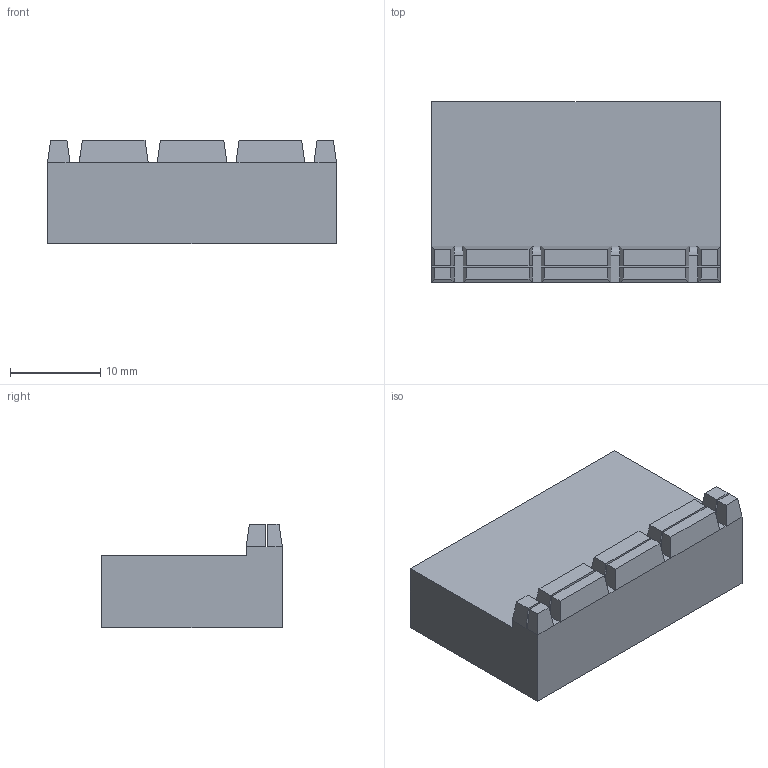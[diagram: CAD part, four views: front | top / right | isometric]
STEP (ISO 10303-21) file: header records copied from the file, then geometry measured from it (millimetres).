
FILE_DESCRIPTION(('STEP AP203'), '1');
FILE_NAME('ïîðîæåê âåðõíèé', '', ('UNSPECIFIED'), ('UNSPECIFIED'), 'ASCON STEP Converter 1.3', 'ASCON Math Kernel', '');
FILE_SCHEMA(('CONFIG_CONTROL_DESIGN'));
Length unit declared in the file: millimetre
Bounding box: 32 x 20 x 11.5 mm (x, y, z)
Volume: 5473.6 mm3; surface area: 2504.8 mm2
Topology: 1 solids, 1 shells, 71 faces, 182 edges, 113 vertices
Faces by surface type: plane 67, cylinder 4
Entity records: 2688 total; most frequent: CARTESIAN_POINT 391, ORIENTED_EDGE 364, DIRECTION 318, EDGE_CURVE 182, LINE 174, VECTOR 174, VERTEX_POINT 113, AXIS2_PLACEMENT_3D 72
